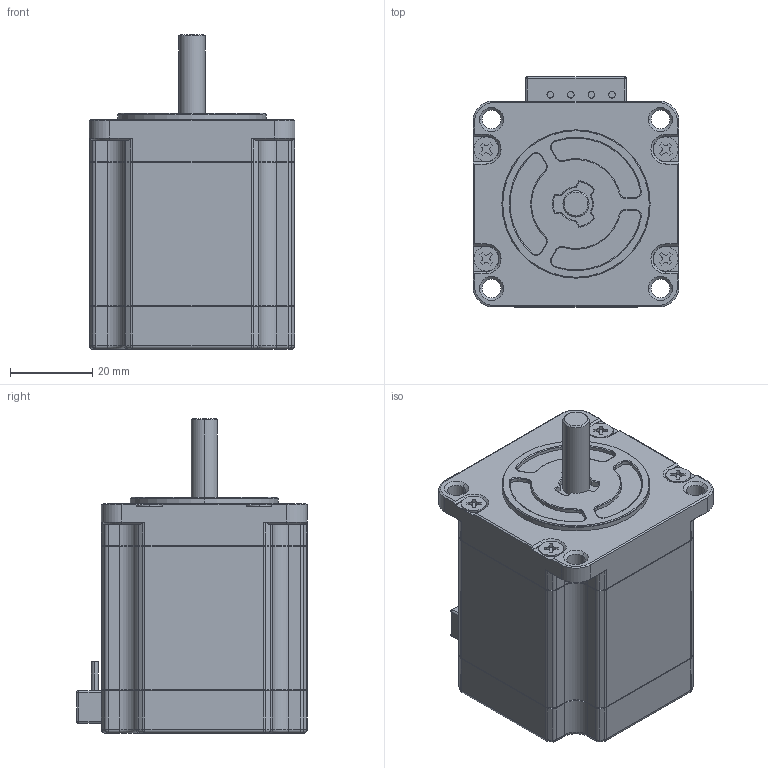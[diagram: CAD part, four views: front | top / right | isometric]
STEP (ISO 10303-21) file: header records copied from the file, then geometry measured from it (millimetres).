
FILE_DESCRIPTION (( 'STEP AP203' ), '1' );
FILE_NAME ('103H6704-5040.STEP', '2013-12-27T03:10:23', ( ' ' ), ( '' ), 'SwSTEP 2.0', 'SolidWorks 2012', '' );
FILE_SCHEMA (( 'CONFIG_CONTROL_DESIGN' ));
Length unit declared in the file: millimetre
Products named in the file (1): 103H6704-5040
Bounding box: 50 x 56 x 76.4 mm (x, y, z)
Volume: 127228.9 mm3; surface area: 16892 mm2
Topology: 1 solids, 1 shells, 600 faces, 1481 edges, 899 vertices
Faces by surface type: plane 218, cylinder 203, cone 111, torus 36, sphere 20, bspline 12
Entity records: 18032 total; most frequent: CARTESIAN_POINT 3608, DIRECTION 3154, ORIENTED_EDGE 2938, EDGE_CURVE 1469, AXIS2_PLACEMENT_3D 1184, VERTEX_POINT 899, LINE 786, VECTOR 786
